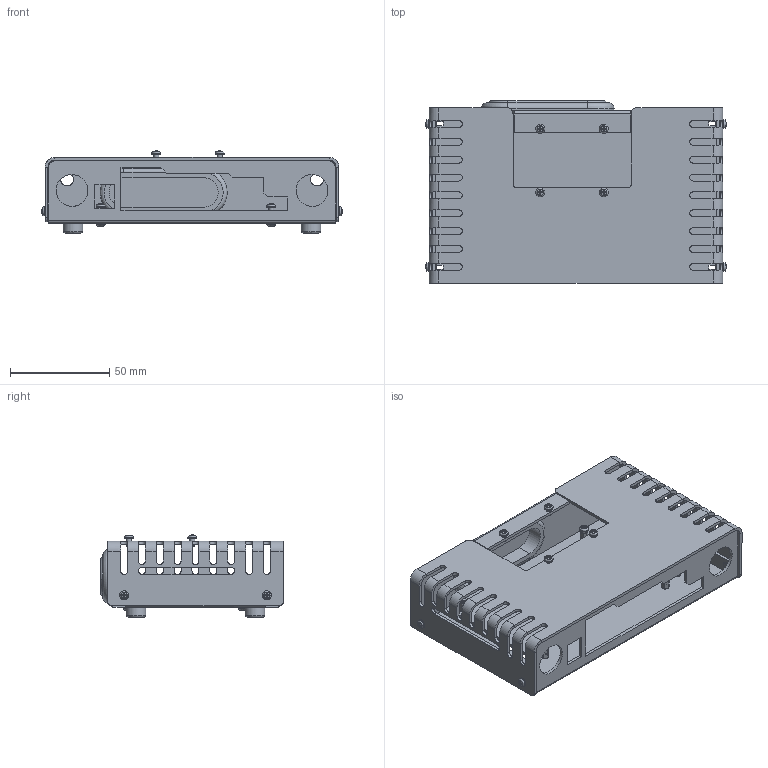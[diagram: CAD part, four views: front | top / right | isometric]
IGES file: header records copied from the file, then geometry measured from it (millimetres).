
Global section: file name: Open_stp ALcase Rev2 for Jetaon Nano; native system: unknown; preprocessor: unknown; author: unknown; organization: unknown; date: 20201016.165035; units: millimetre
Bounding box: 151.57 x 92 x 41.44 mm (x, y, z)
Volume: 57432.1 mm3; surface area: 80648.2 mm2
Topology: 31 solids, 31 shells, 860 faces, 2338 edges, 1504 vertices
Faces by surface type: bspline 860
